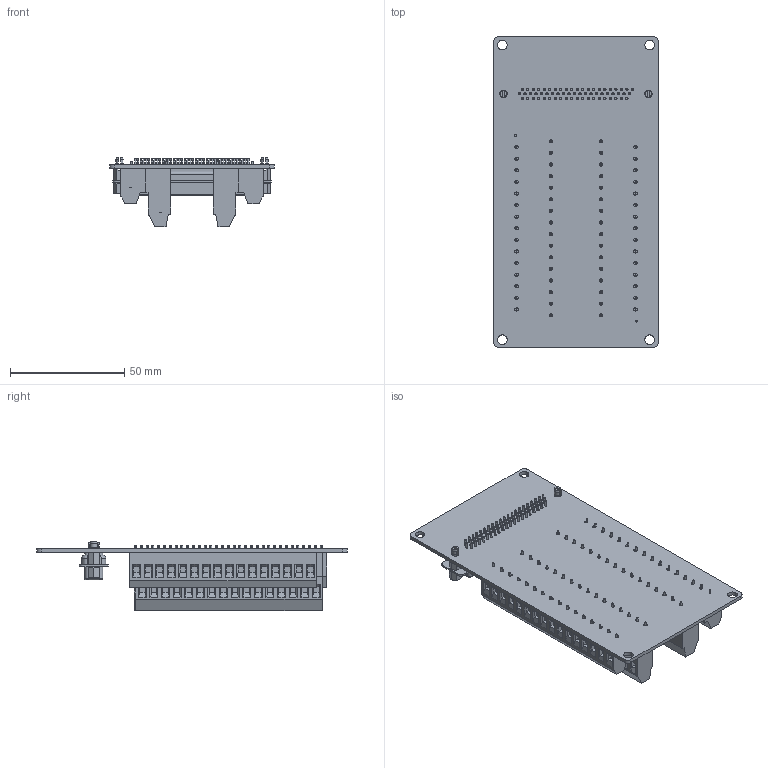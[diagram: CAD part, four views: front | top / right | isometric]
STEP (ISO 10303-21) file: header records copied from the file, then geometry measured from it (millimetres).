
FILE_DESCRIPTION((''),'2;1');
FILE_NAME('ADT-9162B-俋倛喜渡芞-3D','2020-07-07T',('Administrator'),(''),'CREO PARAMETRIC BY PTC INC, 2015290','CREO PARAMETRIC BY PTC INC, 2015290','');
FILE_SCHEMA(('AUTOMOTIVE_DESIGN { 1 0 10303 214 1 1 1 1 }'));
Products named in the file (1): ADT-9162B-俋倛喜渡芞-3D
Bounding box: 72 x 136 x 30.35 mm (x, y, z)
Volume: 78816.5 mm3; surface area: 44204.7 mm2
Topology: 1 solids, 1 shells, 1826 faces, 4269 edges, 2817 vertices
Faces by surface type: plane 1069, cylinder 737, cone 12, torus 4, bspline 4
Entity records: 66036 total; most frequent: DIRECTION 9532, CARTESIAN_POINT 9242, ORIENTED_EDGE 8538, EDGE_CURVE 4269, AXIS2_PLACEMENT_3D 3476, VERTEX_POINT 2817, VECTOR 2580, LINE 2580
